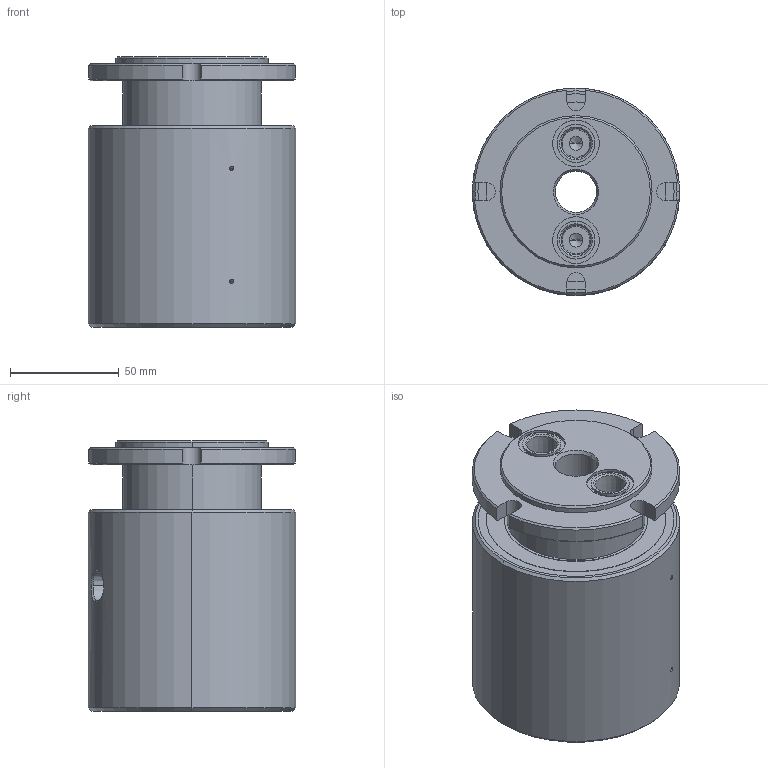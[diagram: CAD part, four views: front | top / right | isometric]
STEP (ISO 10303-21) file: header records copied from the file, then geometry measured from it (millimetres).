
FILE_DESCRIPTION (( 'STEP AP214' ), '1' );
FILE_NAME ('GP(M)-221.STEP', '2013-02-05T22:17:53', ( '' ), ( '' ), 'SwSTEP 2.0', 'SolidWorks 2011', '' );
FILE_SCHEMA (( 'AUTOMOTIVE_DESIGN' ));
Length unit declared in the file: inch
Products named in the file (1): GP(M)-221
Bounding box: 95.25 x 95.25 x 124.41 mm (x, y, z)
Volume: 712512.1 mm3; surface area: 72105.6 mm2
Topology: 1 solids, 1 shells, 182 faces, 432 edges, 259 vertices
Faces by surface type: cylinder 79, cone 58, plane 39, bspline 4, torus 2
Entity records: 5930 total; most frequent: CARTESIAN_POINT 1388, DIRECTION 930, ORIENTED_EDGE 812, EDGE_CURVE 406, AXIS2_PLACEMENT_3D 381, VERTEX_POINT 259, EDGE_LOOP 217, CIRCLE 202
